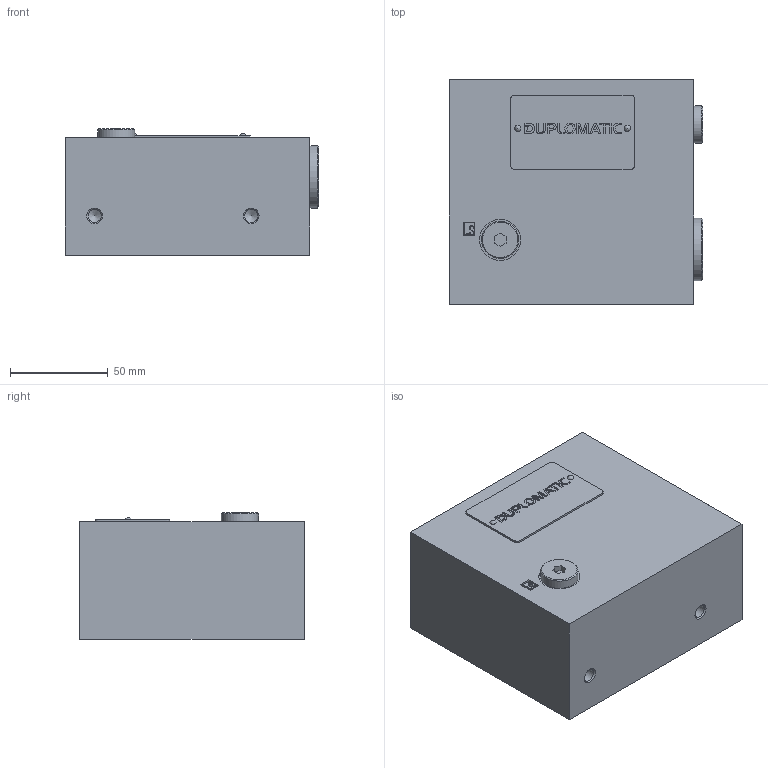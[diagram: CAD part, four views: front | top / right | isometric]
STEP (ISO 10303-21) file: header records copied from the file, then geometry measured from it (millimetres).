
FILE_DESCRIPTION( ( 'STEP AP203' ), '1' );
FILE_NAME( 'p:/temp/worker_66/temp/exporttempdir_5080_288_936mT/format_1/BLS6-C00_12V.stp', '2021-02-04T12:40:40', ( 'License CC BY-ND 4.0' ), ( 'CADENAS' ), ' ', 'PARTsolutions', ' ' );
FILE_SCHEMA( ( 'CONFIG_CONTROL_DESIGN' ) );
Length unit declared in the file: millimetre
Products named in the file (6): BLS6-C00/12V; _0144111_; _0571494; _3001040200; _0771483_; _0571501_
Assembly tree (6 placements, depth 2):
  BLS6-C00/12V
    _0144111_
    _0571494  x2
    _3001040200
    _0771483_
    _0571501_
Bounding box: 129.5 x 115 x 64.5 mm (x, y, z)
Volume: 802428.6 mm3; surface area: 90062.4 mm2
Topology: 6 solids, 6 shells, 547 faces, 1418 edges, 933 vertices
Faces by surface type: plane 447, cylinder 58, cone 40, bspline 2
Full cylindrical faces by diameter (mm): 1.7 x2, 4.134 x1, 4.2 x1, 6.647 x6, 11.445 x4, 12 x3, 13.157 x2, 14.95 x2, 16.662 x1, 18 x4, 19 x3, 21 x2, 22 x1, 23 x1, 24.117 x4, 26.441 x1, 32 x1, 35.5 x3
Entity records: 16148 total; most frequent: CARTESIAN_POINT 3210, ORIENTED_EDGE 2572, DIRECTION 2475, EDGE_CURVE 1286, LINE 1147, VECTOR 1147, VERTEX_POINT 899, AXIS2_PLACEMENT_3D 664
